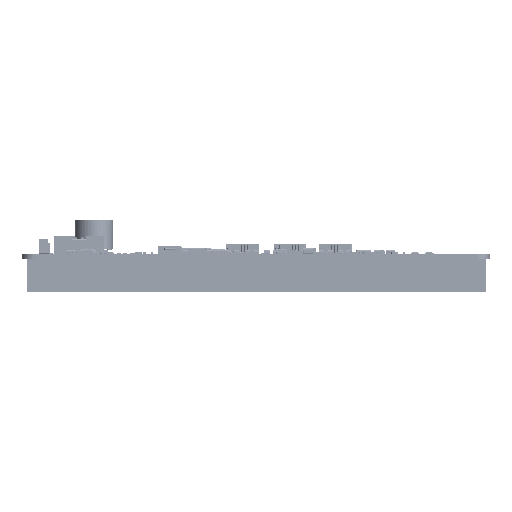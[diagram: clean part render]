
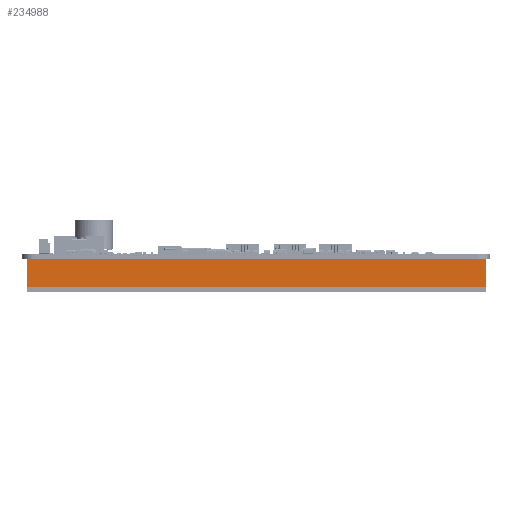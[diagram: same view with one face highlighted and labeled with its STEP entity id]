
A CAD part, left-side view. The second image highlights one B-rep face of the part: STEP entity #234988.
In plain terms, the highlighted planar face has unit normal (-1, 0, 0) as drawn and (1, 0, 0) by its records, which use the part's own axes.
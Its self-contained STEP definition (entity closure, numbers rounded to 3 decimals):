
#30012=FACE_OUTER_BOUND('',#42391,.T.);
#42391=EDGE_LOOP('',(#214888,#214889,#214890,#214891));
#71411=LINE('',#431823,#96275);
#71419=LINE('',#431838,#96283);
#71420=LINE('',#431840,#96284);
#71421=LINE('',#431841,#96285);
#96275=VECTOR('',#311926,10.);
#96283=VECTOR('',#311938,10.);
#96284=VECTOR('',#311941,10.);
#96285=VECTOR('',#311942,10.);
#117617=VERTEX_POINT('',#431820);
#117618=VERTEX_POINT('',#431822);
#117622=VERTEX_POINT('',#431834);
#117623=VERTEX_POINT('',#431836);
#150041=EDGE_CURVE('',#117617,#117618,#71411,.T.);
#150049=EDGE_CURVE('',#117622,#117623,#71419,.T.);
#150050=EDGE_CURVE('',#117617,#117622,#71420,.T.);
#150051=EDGE_CURVE('',#117618,#117623,#71421,.T.);
#214888=ORIENTED_EDGE('',*,*,#150050,.T.);
#214889=ORIENTED_EDGE('',*,*,#150049,.T.);
#214890=ORIENTED_EDGE('',*,*,#150051,.F.);
#214891=ORIENTED_EDGE('',*,*,#150041,.F.);
#223095=PLANE('',#254700);
#234988=ADVANCED_FACE('',(#30012),#223095,.T.);
#254700=AXIS2_PLACEMENT_3D('',#431839,#311939,#311940);
#311926=DIRECTION('',(0.,1.,0.));
#311938=DIRECTION('',(0.,1.,0.));
#311939=DIRECTION('center_axis',(1.,0.,0.));
#311940=DIRECTION('ref_axis',(0.,0.,-1.));
#311941=DIRECTION('',(0.,0.,-1.));
#311942=DIRECTION('',(0.,0.,-1.));
#431820=CARTESIAN_POINT('',(236.979,0.,0.));
#431822=CARTESIAN_POINT('',(236.979,8.7,0.));
#431823=CARTESIAN_POINT('',(236.979,0.,0.));
#431834=CARTESIAN_POINT('',(236.979,0.,-145.2));
#431836=CARTESIAN_POINT('',(236.979,8.7,-145.2));
#431838=CARTESIAN_POINT('',(236.979,0.,-145.2));
#431839=CARTESIAN_POINT('Origin',(236.979,0.,0.));
#431840=CARTESIAN_POINT('',(236.979,0.,0.));
#431841=CARTESIAN_POINT('',(236.979,8.7,0.));
